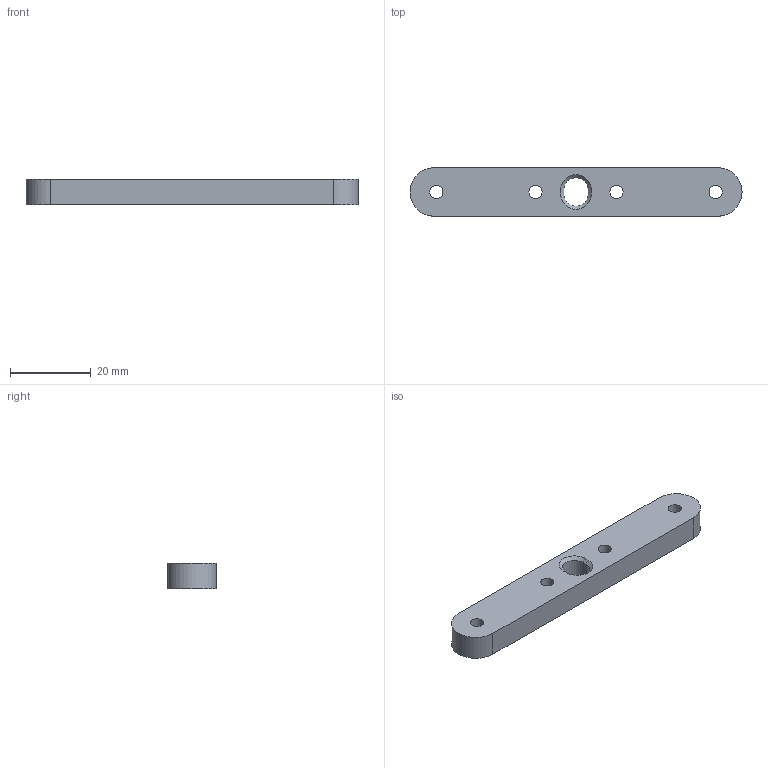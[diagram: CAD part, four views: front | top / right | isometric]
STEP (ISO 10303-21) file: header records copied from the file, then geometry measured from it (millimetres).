
FILE_DESCRIPTION(/* description */ ('Insert Top Flex Jig Basebody'),/* implementation_level */ '2;1');
FILE_NAME(/* name */ 'Z:\Werkstatt Server\Projekte\Atlas\Entwicklung u. Konstruktion\Konstruktion\CAD Daten\ITkPixToolV2.0\CAD_Drawings\Individual Parts\Flex Jig\ITPTv2.02.00.12.stp',/* time_stamp */ '2022-07-11T15:25:22+02:00',/* author */ ('Tim Kanngießer'),/* organization */ (''),/* preprocessor_version */ 'ST-DEVELOPER v19',/* originating_system */ 'Autodesk Inventor 2023',/* authorisation */ '');
FILE_SCHEMA (('AUTOMOTIVE_DESIGN { 1 0 10303 214 3 1 1 }'));
Length unit declared in the file: millimetre
Products named in the file (1): ITPTv2.02.00.12
Bounding box: 82 x 12 x 6.3 mm (x, y, z)
Volume: 5573.4 mm3; surface area: 3270.2 mm2
Topology: 1 solids, 1 shells, 18 faces, 44 edges, 28 vertices
Faces by surface type: plane 8, cylinder 8, cone 2
Full cylindrical faces by diameter (mm): 3.242 x4
Entity records: 597 total; most frequent: DIRECTION 100, CARTESIAN_POINT 91, ORIENTED_EDGE 88, EDGE_CURVE 44, AXIS2_PLACEMENT_3D 37, EDGE_LOOP 28, VERTEX_POINT 28, LINE 26
